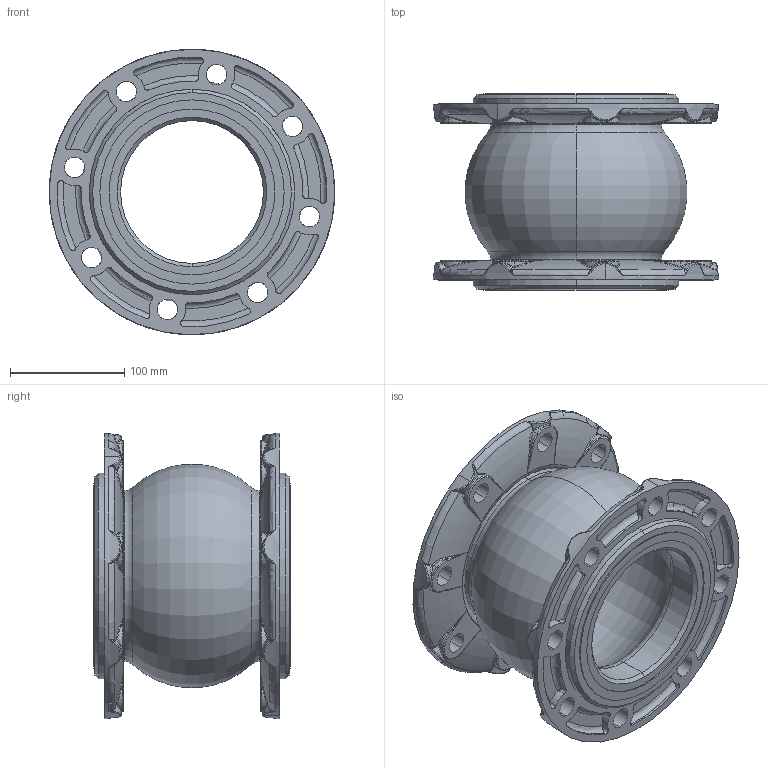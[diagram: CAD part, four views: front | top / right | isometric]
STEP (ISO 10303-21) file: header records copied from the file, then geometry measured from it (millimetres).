
FILE_DESCRIPTION (( 'STEP AP214' ), '1' );
FILE_NAME ('DN125单球橡胶软接.STEP', '2025-12-26T01:34:48', ( '' ), ( '' ), 'SwSTEP 2.0', 'SolidWorks 2024', '' );
FILE_SCHEMA (( 'AUTOMOTIVE_DESIGN' ));
Length unit declared in the file: millimetre
Products named in the file (3): DN125单球橡胶软接; DN125新款球铁法兰; DN125 单球橡胶
Assembly tree (3 placements, depth 2):
  DN125单球橡胶软接
    DN125 单球橡胶
    DN125新款球铁法兰  x2
Bounding box: 249.87 x 172 x 249.87 mm (x, y, z)
Volume: 1764106.2 mm3; surface area: 417268.3 mm2
Topology: 3 solids, 3 shells, 742 faces, 1884 edges, 1138 vertices
Faces by surface type: cylinder 304, bspline 224, torus 98, plane 76, sphere 32, cone 8
Entity records: 18706 total; most frequent: CARTESIAN_POINT 10000, ORIENTED_EDGE 1964, DIRECTION 1634, EDGE_CURVE 982, AXIS2_PLACEMENT_3D 727, VERTEX_POINT 601, CIRCLE 434, EDGE_LOOP 433
